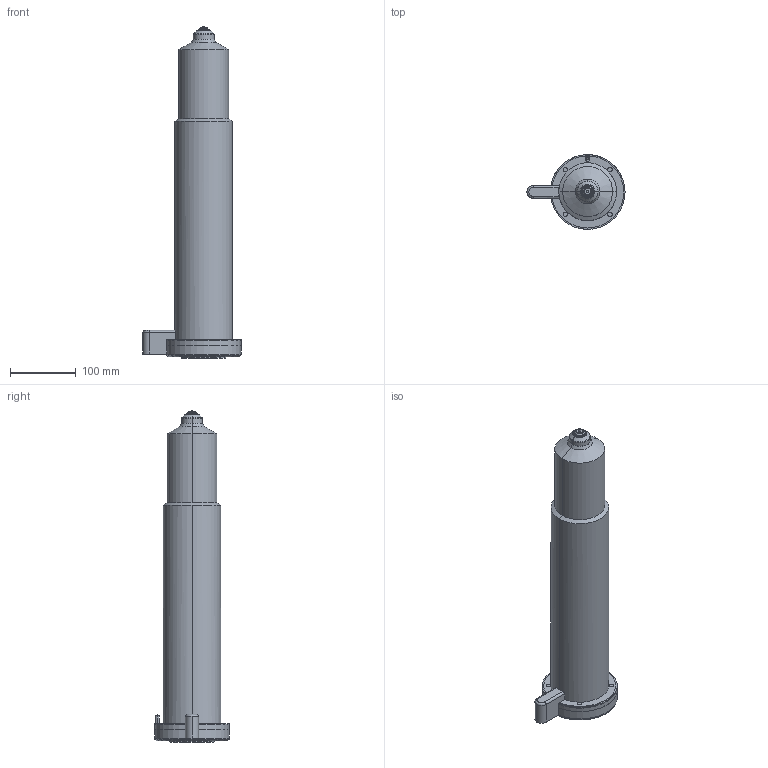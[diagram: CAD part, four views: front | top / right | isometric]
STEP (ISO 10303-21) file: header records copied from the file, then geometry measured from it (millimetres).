
FILE_DESCRIPTION (( 'STEP AP214' ), '1' );
FILE_NAME ('SR24_OPEN_500_HELICAL.STEP', '2009-05-07T18:34:30', ( 'Synventive Molding Solutions' ), ( 'Synventive Molding Solutions' ), 'SwSTEP 2.0', 'SolidWorks 2008', '' );
FILE_SCHEMA (( 'AUTOMOTIVE_DESIGN' ));
Length unit declared in the file: millimetre
Products named in the file (1): SR24_OPEN_500_HELICAL
Bounding box: 149.5 x 114 x 506 mm (x, y, z)
Volume: 4328588.2 mm3; surface area: 317335.3 mm2
Topology: 3 solids, 5 shells, 442 faces, 1151 edges, 723 vertices
Faces by surface type: cylinder 181, plane 118, bspline 52, cone 50, torus 41
Entity records: 37303 total; most frequent: CARTESIAN_POINT 22266, ORIENTED_EDGE 2278, DIRECTION 1986, EDGE_CURVE 1139, AXIS2_PLACEMENT_3D 771, VERTEX_POINT 723, EDGE_LOOP 480, UNCERTAINTY_MEASURE_WITH_UNIT 446
